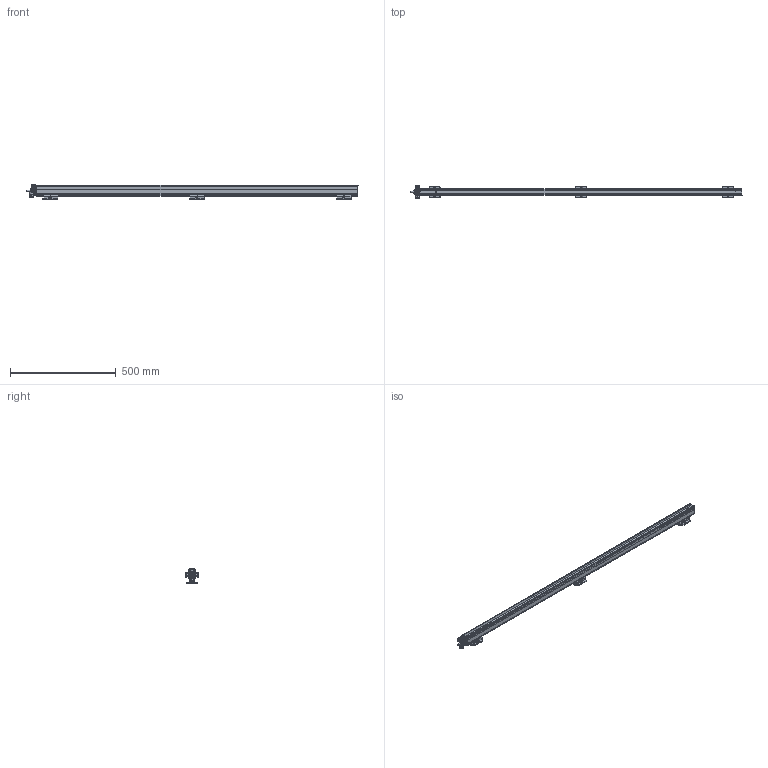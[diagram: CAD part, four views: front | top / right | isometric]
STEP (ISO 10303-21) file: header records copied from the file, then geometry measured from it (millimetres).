
FILE_DESCRIPTION(/* description */ (''),/* implementation_level */ '2;1');
FILE_NAME(/* name */ 'PERFORMAXEASYEX_1350_3D_GB',/* time_stamp */ '2017-05-31T09:49:13+02:00',/* author */ (''),/* organization */ (''),/* preprocessor_version */ 'ST-DEVELOPER v15.7',/* originating_system */ 'HiCAD 2015 2002.1 Build 408',/* authorisation */ '');
FILE_SCHEMA (('AUTOMOTIVE_DESIGN { 1 0 10303 214 1 1 1 1 }'));
Length unit declared in the file: millimetre
Products named in the file (66): Root; -_Performax (IQ) Easy Ex 1350 eff (Hybrid + Speed); -_LED; -_PROFILE; -_POTTING; -_CAP DE; -_CAP CE; -_CABLE; -_PIN; -_COVER; 4532000100_Mounting bracket bars; -_Side piece; -_Slide piece; -_Bracket small; DIN 13-M3; DIN 76-M3; 2047507823_PE connection; DIN 916-M4x20-45H_Set screws; GEWINDE; ISO 8738-4-160 HV_Washers for studs; ISO 4032-M4-10_Hexagon nuts; DIN 127-A 4-FSt_Washers; 2047493713_Cable exits; -_Exit K; -_Clip; -_Gland body; -_Exit S; -_Exit Q; -_Washer ø20mm, 5mm thick for corr. conduit (exit
 Q); -_Exit I; -_Exit U; -_Exit A; Thread_2
Assembly tree (65 placements, depth 5):
  Root
    -_Performax (IQ) Easy Ex 1350 eff (Hybrid + Speed)
      -_LED
      -_PROFILE
      -_POTTING
      -_CAP DE
      -_CAP CE
      -_CABLE
      -_PIN
      -_PIN
      -_COVER
      4532000100_Mounting bracket bars
        -_Side piece
        -_Side piece
        -_Slide piece
        -_Bracket small
          DIN 13-M3
          DIN 13-M3
          DIN 76-M3
          DIN 76-M3
      4532000100_Mounting bracket bars
        -_Side piece
        -_Side piece
        -_Slide piece
        -_Bracket small
          DIN 13-M3
          DIN 13-M3
          DIN 76-M3
          DIN 76-M3
      4532000100_Mounting bracket bars
        -_Side piece
        -_Side piece
        -_Slide piece
        -_Bracket small
          DIN 13-M3
          DIN 13-M3
          DIN 76-M3
          DIN 76-M3
      2047507823_PE connection
        DIN 916-M4x20-45H_Set screws
          GEWINDE
        ISO 8738-4-160 HV_Washers for studs
        ISO 4032-M4-10_Hexagon nuts
          GEWINDE
        DIN 127-A 4-FSt_Washers
        ISO 4032-M4-10_Hexagon nuts
          GEWINDE
      2047493713_Cable exits
        -_Exit K
          -_Clip
          -_Gland body
        -_Exit S
          -_Clip
          -_Gland body
        -_Exit Q
          -_Clip
          -_Washer ø20mm, 5mm thick for corr. conduit (exit
 Q)
          -_Gland body
        -_Exit I
          -_Clip
Bounding box: 1572.4 x 58.79 x 68.9 mm (x, y, z)
Volume: 1909036.5 mm3; surface area: 558041.2 mm2
Topology: 55 solids, 64 shells, 2590 faces, 6638 edges, 4032 vertices
Faces by surface type: plane 1152, cylinder 1031, torus 134, sphere 126, bspline 96, cone 51
Full cylindrical faces by diameter (mm): 2.387 x12, 3 x24, 3.141 x4, 4 x5, 4.3 x1, 5.4 x2, 5.5 x15, 8 x2, 11.3 x4, 12.5 x4, 13 x1, 14.6 x5, 15.1 x5, 18.4 x4, 20 x7, 20.2 x4
Entity records: 141652 total; most frequent: CARTESIAN_POINT 28981, DIRECTION 13310, PRESENTATION_STYLE_ASSIGNMENT 12610, OVER_RIDING_STYLED_ITEM 12556, DRAUGHTING_PRE_DEFINED_CURVE_FONT 12538, CURVE_STYLE 12538, ORIENTED_EDGE 12538, EDGE_CURVE 6269
